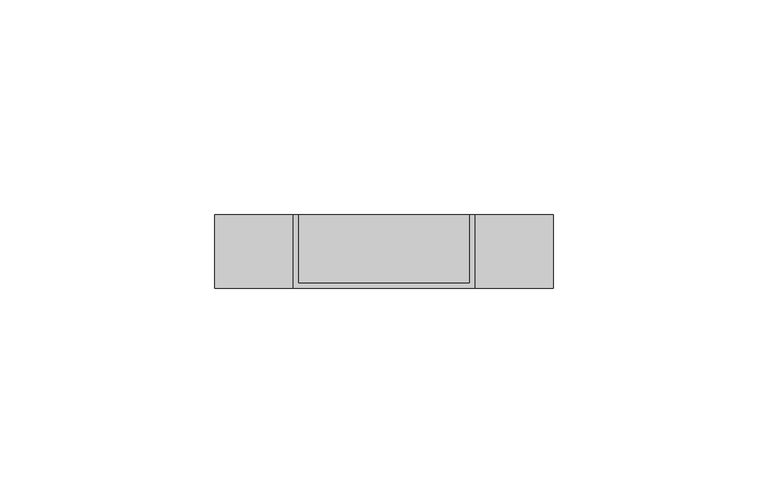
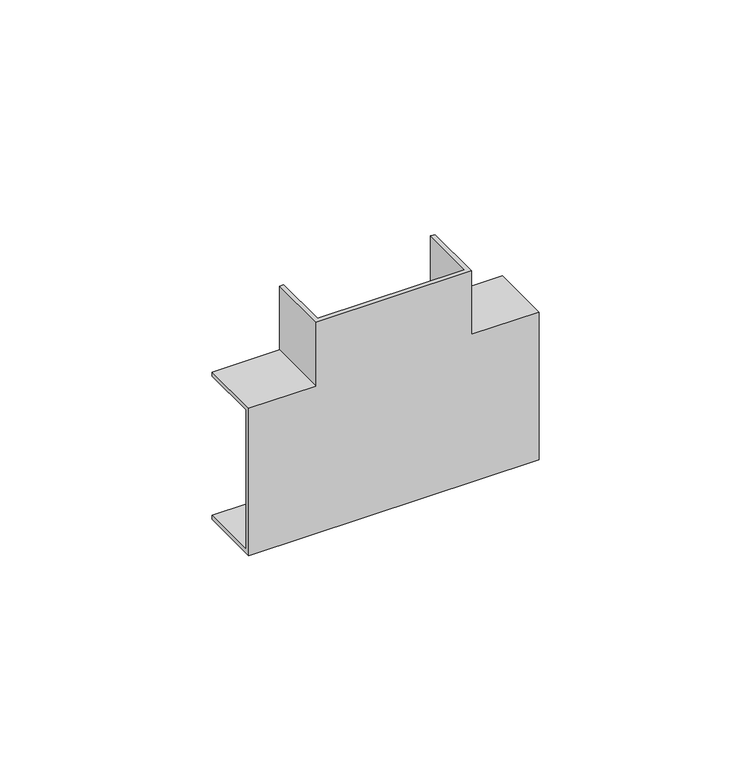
"""IFC4 building model written with IfcOpenShell, lengths in millimetres: proxy geometry, Угол_Т-образный КМТ : Угол Т-образный КМТ 40x16."""

from ifc_helpers import new_model, si_unit, origin, place, context, project, spatial, faceted_brep, source, transform, mapped, element, save


def generic_models_1ed308b8(model_context):
    return source(origin(), model_context, "Body", "Brep", [
        faceted_brep([(-21.2, -17.2, 21.2), (-39.5, -17.2, 21.2), (-39.5, -17.2, -21.2), (39.5, -17.2, -21.2), (39.5, -17.2, 21.2), (21.2, -17.2, 21.2), (21.2, -17.2, 39.5), (-21.2, -17.2, 39.5), (-21.2, 0.0, 21.2), (-21.2, 0.0, 39.5), (-20.0, 0.0, 39.5), (-20.0, 0.0, 20.0), (-39.5, 0.0, 20.0), (-39.5, 0.0, 21.2), (21.2, 0.0, 39.5), (21.2, 0.0, 21.2), (39.5, 0.0, 21.2), (39.5, 0.0, 20.0), (20.0, 0.0, 20.0), (20.0, 0.0, 39.5), (39.5, 0.0, -21.2), (-39.5, 0.0, -21.2), (-39.5, 0.0, -20.0), (-20.0, 0.0, -20.0), (20.0, 0.0, -20.0), (39.5, 0.0, -20.0), (-39.5, -16.0, 20.0), (-39.5, -16.0, -20.0), (39.5, -16.0, -20.0), (39.5, -16.0, 20.0), (20.0, -16.0, 39.5), (-20.0, -16.0, 39.5), (-20.0, -16.0, 20.0), (20.0, -16.0, 20.0)], [[[0, 1, 2, 3, 4, 5, 6, 7]], [[8, 9, 10, 11, 12, 13]], [[14, 15, 16, 17, 18, 19]], [[20, 21, 22, 23, 24, 25]], [[1, 0, 8, 13]], [[2, 1, 13, 12, 26, 27, 22, 21]], [[3, 2, 21, 20]], [[4, 3, 20, 25, 28, 29, 17, 16]], [[5, 4, 16, 15]], [[6, 5, 15, 14]], [[7, 6, 14, 19, 30, 31, 10, 9]], [[0, 7, 9, 8]], [[27, 26, 32, 31, 30, 33, 29, 28]], [[22, 27, 28, 25, 24, 23]], [[26, 12, 11, 32]], [[17, 29, 33, 18]], [[33, 30, 19, 18]], [[31, 32, 11, 10]]]),
    ])


if __name__ == "__main__":
    model = new_model("IFC4")
    model_context = context("Model", 3, world=origin())
    ifc_project = project(units=[si_unit("LENGTHUNIT", "METRE", prefix="MILLI")], contexts=[model_context])
    site = spatial("IfcSite", under=ifc_project)
    building = spatial("IfcBuilding", under=site)
    placement = place(None, origin())
    generic_models_shape = generic_models_1ed308b8(model_context)
    element("IfcBuildingElementProxy", 1, Name="Угол_Т-образный КМТ : Угол Т-образный КМТ 40x16", ObjectType="Угол_Т-образный КМТ : Угол Т-образный КМТ 40x16", at=placement, inside=building, context=model_context, shape_type="MappedRepresentation", body=[
        mapped(generic_models_shape, transform((0.0, 0.0, 0.0), x_axis=(1.0, 0.0, 0.0), y_axis=(0.0, 1.0, 0.0), z_axis=(0.0, 0.0, 1.0))),
    ])
    save(model, "model.ifc")
